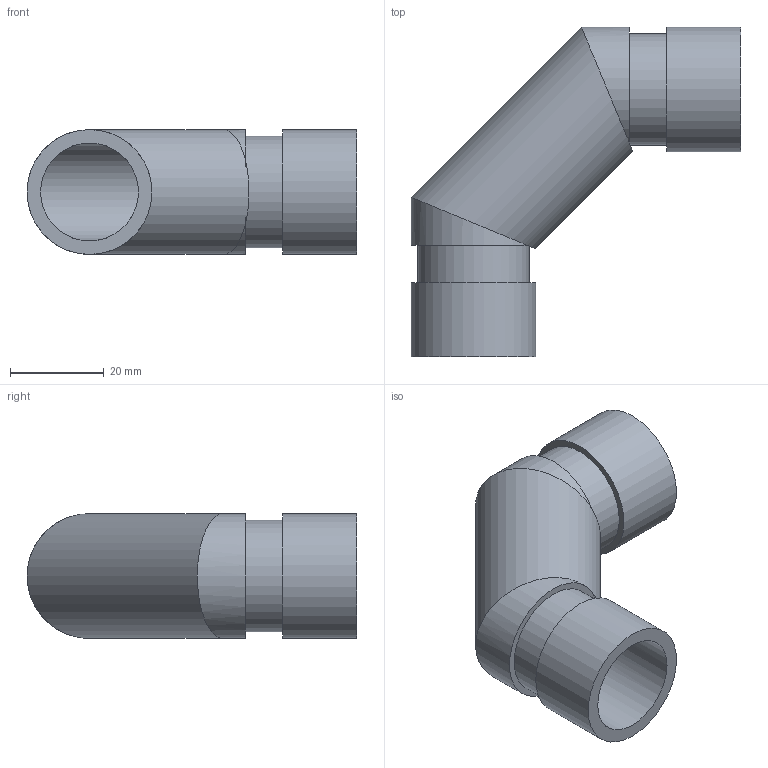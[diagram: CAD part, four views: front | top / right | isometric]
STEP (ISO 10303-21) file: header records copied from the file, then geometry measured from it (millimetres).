
FILE_DESCRIPTION(/* description */ ('VIC 90 DEG ELBOW FABRICATED No 10 SWS (OGS)','CAx-IF Rec.Pracs.---Representation and Presentation of Product Manufacturing Information (PMI)---4.0---2014-10-13'),/* implementation_level */ '2;1');
FILE_NAME(/* name */ 'C:\Users\kkamble\AppData\Roaming\Autodesk\ApplicationPlugins\Back Up\Victaulic_IPS_Elbow 90 Deg_No 10 SWS (OGS)\Victaulic_IPS_Elbow 90 Deg_No 10 SWS (OGS)_0.75 (20).stp',/* time_stamp */ '2020-09-16T22:17:08+06:00',/* author */ ('cgray'),/* organization */ ('Victaulic'),/* preprocessor_version */ 'ST-DEVELOPER v17.2',/* originating_system */ 'Autodesk Inventor 2019',/* authorisation */ '');
FILE_SCHEMA (('AP242_MANAGED_MODEL_BASED_3D_ENGINEERING_MIM_LF { 1 0 10303 442 1 1 4 }'));
Length unit declared in the file: inch
Products named in the file (1): 10 SWS-0.75
Bounding box: 70.48 x 70.48 x 26.67 mm (x, y, z)
Volume: 19143 mm3; surface area: 15356.9 mm2
Topology: 1 solids, 1 shells, 18 faces, 42 edges, 30 vertices
Faces by surface type: cylinder 12, plane 6
Full cylindrical faces by diameter (mm): 20.93 x3, 23.825 x2, 26.67 x3
Entity records: 702 total; most frequent: DIRECTION 140, CARTESIAN_POINT 108, ORIENTED_EDGE 84, AXIS2_PLACEMENT_3D 66, EDGE_CURVE 42, VERTEX_POINT 30, EDGE_LOOP 24, STYLED_ITEM 20
